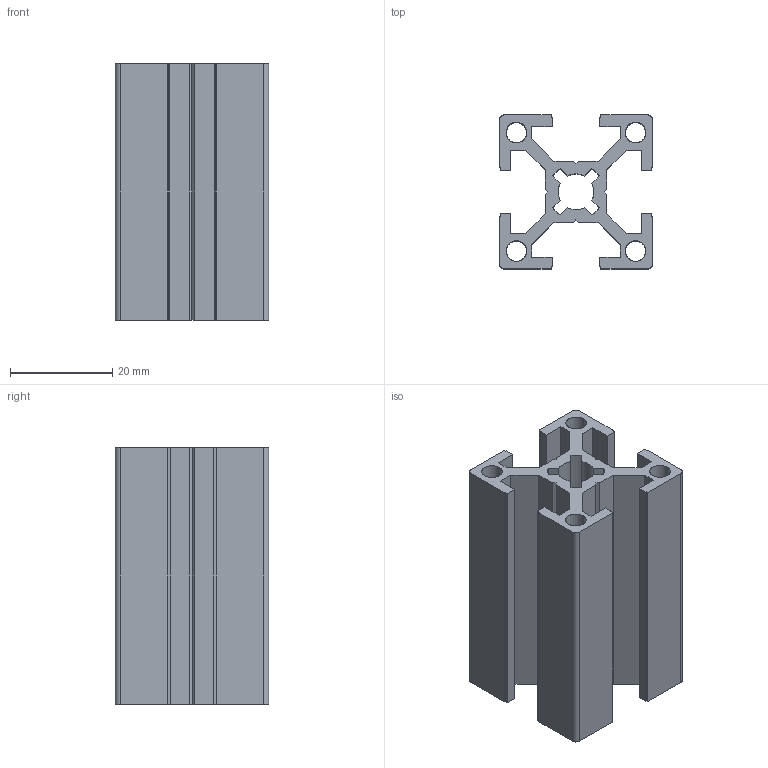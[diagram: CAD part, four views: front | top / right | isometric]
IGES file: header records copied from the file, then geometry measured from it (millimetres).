
Start section: SolidWorks IGES file using analytic representation for surfaces
Global section: file name: C:\Documents and Settings\URETIM3\Desktop\yeni katalog tolgay düzenli\C kataloðu\30x30 eloksallý sigma alüminyum profil\765 030 030.IGS; native system: SolidWorks 2006 by SolidWorks Corporation; preprocessor: SolidWorks 2006 by SolidWorks Corporation; author: URETIM3; date: 060912.100145; units: millimetre
Bounding box: 30 x 30 x 50 mm (x, y, z)
Surface area: 16918.8 mm2 (no closed solid volume)
Topology: 0 solids, 0 shells, 103 faces, 932 edges, 932 vertices
Faces by surface type: bspline 82, revolution 21
